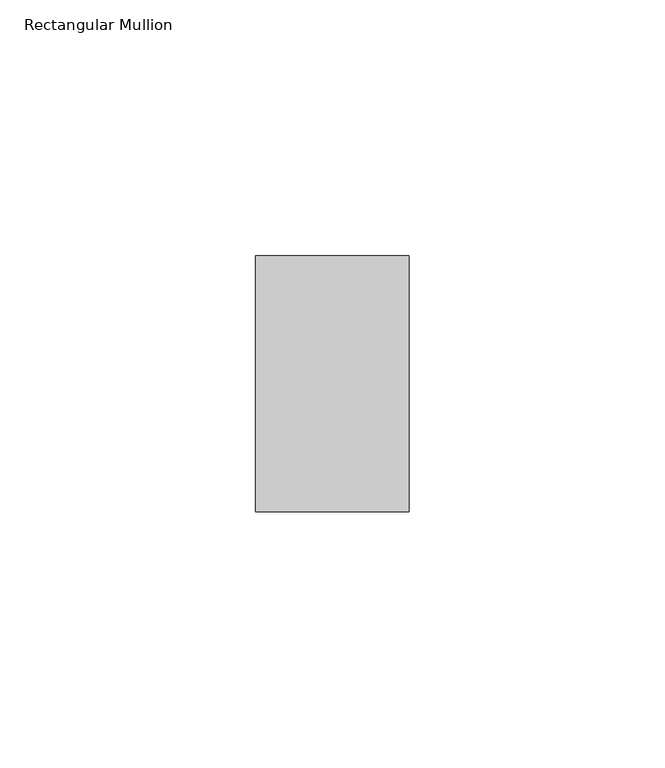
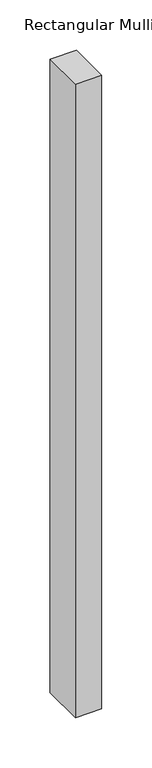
"""IFC4 building model written with IfcOpenShell, lengths in millimetres: member geometry, Rectangular Mullion : ARQ_TV_MULL_50x30mm."""

from ifc_helpers import new_model, si_unit, frame, origin, place, context, project, spatial, polyline, outline, extrude, source, transform, mapped, element, save


def rectangular_mullion_8b01d1bd(model_context):
    return source(origin(), model_context, "Body", "SweptSolid", [
        extrude(outline(polyline([(0.0, 25.0), (0.0, -25.0), (-30.0, -25.0), (-30.0, 25.0), (0.0, 25.0)])), frame((0.0, 0.0, -767.3948017), z_axis=(0.0, 0.0, 1.0), x_axis=(1.0, 0.0, 0.0)), (0.0, 0.0, 1.0), 767.3948017),
    ])


if __name__ == "__main__":
    model = new_model("IFC4")
    model_context = context("Model", 3, world=origin())
    ifc_project = project(units=[si_unit("LENGTHUNIT", "METRE", prefix="MILLI")], contexts=[model_context])
    site = spatial("IfcSite", under=ifc_project)
    building = spatial("IfcBuilding", under=site)
    placement = place(None, origin())
    rectangular_mullion_shape = rectangular_mullion_8b01d1bd(model_context)
    element("IfcMember", 1, ObjectType="Rectangular Mullion : ARQ_TV_MULL_50x30mm", at=placement, inside=building, context=model_context, shape_type="MappedRepresentation", body=[
        mapped(rectangular_mullion_shape, transform((0.0, 0.0, 0.0), x_axis=(1.0, 0.0, 0.0), y_axis=(0.0, 1.0, 0.0), z_axis=(0.0, 0.0, 1.0))),
    ])
    save(model, "model.ifc")
